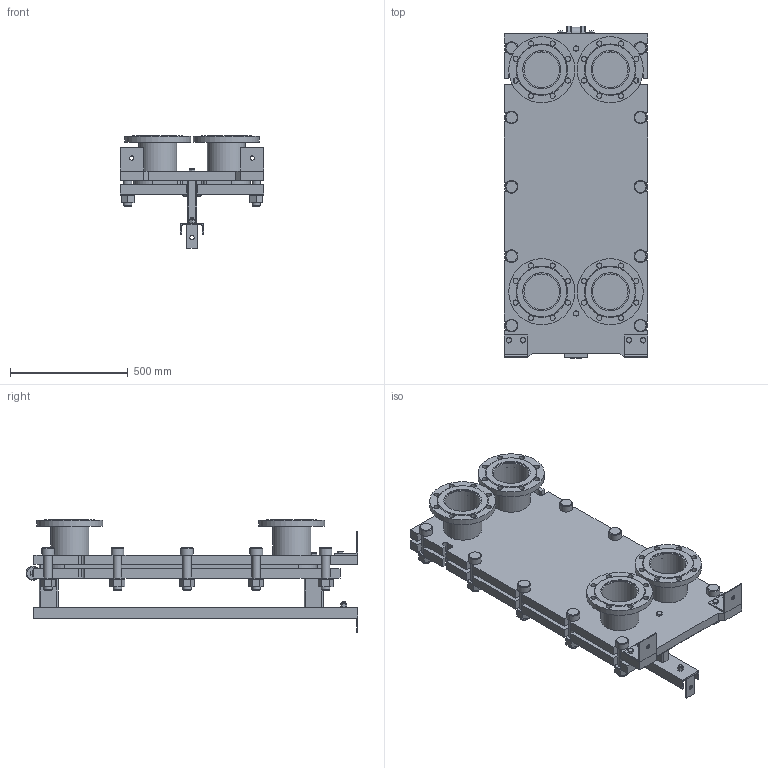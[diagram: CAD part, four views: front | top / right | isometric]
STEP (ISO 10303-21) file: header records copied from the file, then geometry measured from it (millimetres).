
FILE_DESCRIPTION(/* description */ (''),/* implementation_level */ '2;1');
FILE_NAME(/* name */ 'C:\Users\zhuro\Desktop\ENCO\TO\ЭН-041\ЭН-0,5-041-5-1.stp',/* time_stamp */ '2022-06-06T10:48:05+03:00',/* author */ ('zhuro'),/* organization */ (''),/* preprocessor_version */ 'ST-DEVELOPER v18.1',/* originating_system */ 'Autodesk Inventor 2022',/* authorisation */ '');
FILE_SCHEMA (('AUTOMOTIVE_DESIGN { 1 0 10303 214 3 1 1 }'));
Length unit declared in the file: millimetre
Products named in the file (1): ЭН-0,5-041-5-1
Bounding box: 610 x 1406.5 x 477.5 mm (x, y, z)
Volume: 83499301.9 mm3; surface area: 6929839 mm2
Topology: 52 solids, 52 shells, 711 faces, 1696 edges, 1094 vertices
Faces by surface type: plane 487, cylinder 177, cone 41, torus 6
Full cylindrical faces by diameter (mm): 8 x4, 10 x2, 16 x8, 18 x3, 22 x32, 36 x24, 50 x1, 54 x10, 60 x12, 151 x4, 161 x8, 280 x4
Entity records: 22667 total; most frequent: CARTESIAN_POINT 5230, DIRECTION 3644, ORIENTED_EDGE 3392, EDGE_CURVE 1696, AXIS2_PLACEMENT_3D 1272, LINE 1100, VECTOR 1100, VERTEX_POINT 1094
